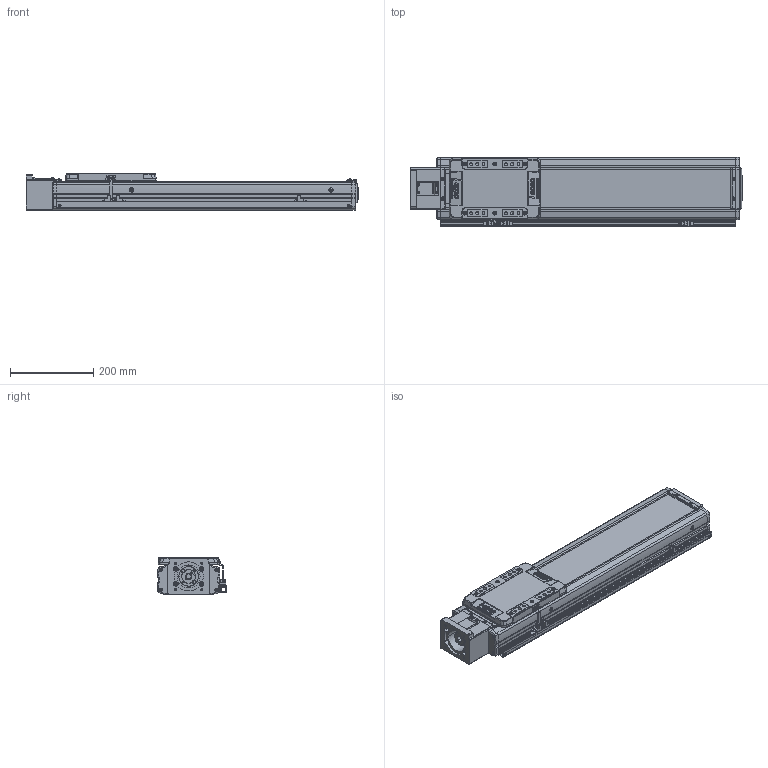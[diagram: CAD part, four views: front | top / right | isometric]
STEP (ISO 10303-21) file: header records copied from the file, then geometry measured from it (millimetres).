
FILE_DESCRIPTION(('STEP AP214'),'1');
FILE_NAME('Z:/Web/3D/SAN150/2013.04 (STP.)/SAN150ㅁㅁ-450S+3SR.stp','2013-05-07T23:51:20',(' '),(' '),'Spatial InterOp 3D',' ',' ');
FILE_SCHEMA(('automotive_design'));
Length unit declared in the file: millimetre
Products named in the file (93): SLBL-SAN150; SLCV-SAN150; FHCS M4.0 x 8.0; BHCS M4.0 x 10.0; SFX-SAN150; RRCV-SAN150; FRBL-SAN150; Spacer; RN15; FRCV-SAN150; Screw 20; BASE-SAN150-000L ; SUS COVER; 스크루 : Round - M5.0 x 6.0; BHCS M3.0 x 6.0; SSFX-SAN65; CPLCV-SAN65; SDWA47C(2); SDWA47C(3-1); SDWA47C(3); SDWA47C(1); SDWA47C(4); SDWA47C(5); MTHZ-SAN150-80; M3.0 x 6.0; SRL-16x17-360L; SGD-SAN150; EE-SX674; SBK-SX674-352; 스크루 : Round - M3.0 x 6.0
Bounding box: 799 x 166 x 90 mm (x, y, z)
Volume: 4822013.2 mm3; surface area: 996678 mm2
Topology: 93 solids, 93 shells, 3312 faces, 8607 edges, 5577 vertices
Faces by surface type: plane 1559, cylinder 1243, cone 389, sphere 76, bspline 29, torus 16
Entity records: 133176 total; most frequent: CARTESIAN_POINT 21147, DIRECTION 18607, ORIENTED_EDGE 16998, EDGE_CURVE 8499, AXIS2_PLACEMENT_3D 6884, VERTEX_POINT 5577, LINE 4839, VECTOR 4839
